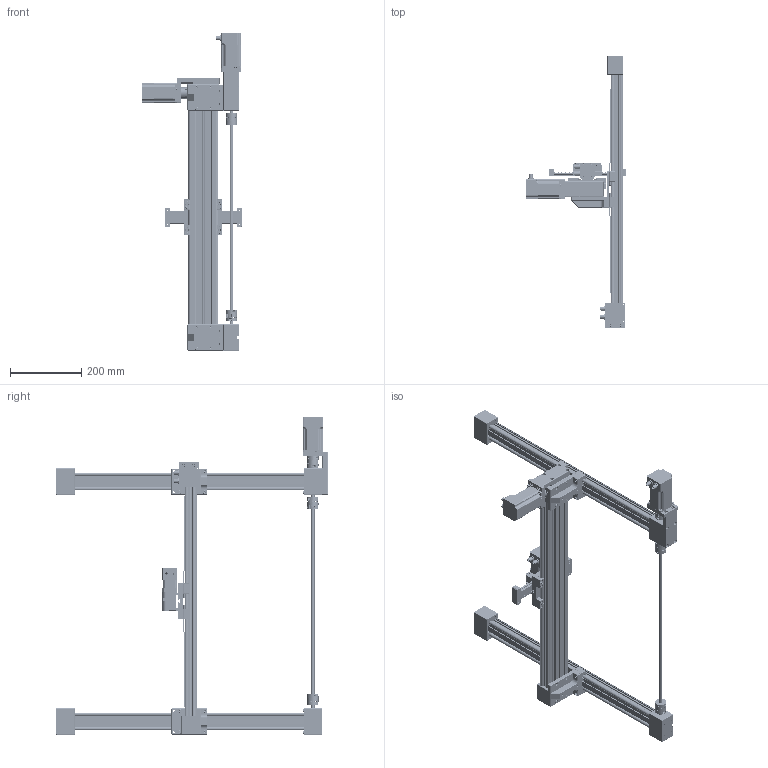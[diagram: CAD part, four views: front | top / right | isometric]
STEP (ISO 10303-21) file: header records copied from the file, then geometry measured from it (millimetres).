
FILE_DESCRIPTION((''),'2;1');
FILE_NAME('I:\Gleitlager\Konstruktion\SERIE NEU (im Aufbau!!)\drylin E\Portale\DLE-RG-XXXX\DLE-RG-0001\DLE-RG-0001.stp','2014-10-31T08:08:35',('fkleine'),(''),'Autodesk Inventor 2013','Autodesk Inventor 2013','');
FILE_SCHEMA(('AUTOMOTIVE_DESIGN { 1 0 10303 214 1 1 1 1 }'));
Length unit declared in the file: millimetre
Products named in the file (82): DLE-RG-0001.iam (Parametermodell); ZLW-1040-S-konfig-X1.iam (Parametermodell); ZSX-104001-konfig; ZTL-104002; SAXT-104001; SAXT-104002; DIN 7984 M4 x 10; ZTL-10400S-V; SAWT-104002; DIN 913 M5 x 5; DIN 7984 M5 x 20; JTEM-10; DIN 625 SKF 6000; ZTY-104035; ZTZ-104009; ZS-104001; NOR-10601; WJUM-11-10; WM-01-10; JUMO-01-10; ZSY-104001; ZR-104001-konfig; ZR-104001-XX-konfig; DIN 7991 M6x12; ZSY-104002; ZTF-104006; SAXT-104005; ZTF-10400S-R-L-V; SAWT-104003; ZLW-1080-konfig.iam (Parametermodell); ZSX-108001-konfig; ZTL-108001; ZTZ-108001; ZTY-108001; ZTF-108002; ZTY-108002; ZTZ-108002; SAWT-104001; ZS-108001; ZSY-108001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
Assembly tree (214 placements, depth 5):
  DLE-RG-0001.iam (Parametermodell)
    ZLW-1040-S-konfig-X1.iam (Parametermodell)
      ZSX-104001-konfig
      ZTL-104002
        SAXT-104001
        SAXT-104002
        DIN 7984 M4 x 10  x2
        ZTL-10400S-V
          SAWT-104002
          DIN 913 M5 x 5  x4
          DIN 7984 M5 x 20  x4
          JTEM-10  x4
          DIN 625 SKF 6000  x2
          ZTY-104035  x2
        ZTZ-104009  x2
      ZS-104001
        NOR-10601  x4
        WJUM-11-10  x4
          WM-01-10
          JUMO-01-10
        ZSY-104001
      ZR-104001-konfig
        ZR-104001-XX-konfig
        DIN 7991 M6x12  x2
        ZSY-104002  x2
      ZTF-104006
        SAXT-104005
        SAXT-104002
        DIN 7984 M4 x 10  x2
        ZTF-10400S-R-L-V
          JTEM-10  x2
          DIN 625 SKF 6000  x2
          SAWT-104003
          ZTY-104035  x2
        ZTZ-104009  x2
    ZLW-1080-konfig.iam (Parametermodell)
      ZSX-108001-konfig
      ZTL-108001
        ZTZ-108001
        ZTY-108001
        SAWT-104002
        ZTY-104035  x2
        JTEM-10  x2
        DIN 7984 M5 x 20  x4
        DIN 7984 M4 x 10  x2
        DIN 625 SKF 6000  x2
        DIN 913 M5 x 5  x4
      ZTF-108002
        ZTY-108002
        ZTZ-108002
        ZTY-104035  x2
        SAWT-104001
        JTEM-10  x2
        DIN 7984 M5 x 20  x4
        DIN 7984 M4 x 10  x2
        DIN 625 SKF 6000  x2
      ZS-108001
        NOR-10601  x4
        WJUM-11-10  x4
          WM-01-10
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Bounding box: 279.95 x 761.5 x 889 mm (x, y, z)
Volume: 3518873.1 mm3; surface area: 2093744 mm2
Topology: 245 solids, 260 shells, 12667 faces, 33017 edges, 21060 vertices
Faces by surface type: plane 6420, cylinder 4208, cone 910, torus 468, sphere 340, bspline 321
Full cylindrical faces by diameter (mm): 1 x39, 1.3 x4, 1.8 x36, 2 x36, 2.013 x11, 2.1 x4, 2.459 x13, 2.5 x24, 2.75 x8, 2.8 x12, 2.9 x4, 3 x33, 3.2 x5, 3.242 x28, 3.4 x4, 3.459 x8, 4 x48, 4.1 x4, 4.134 x28, 4.2 x8, 4.459 x4, 4.5 x8, 4.9 x4, 4.917 x52, 5 x106, 5.5 x56, 6 x52, 6.35 x2, 6.5 x8, 6.6 x34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
Entity records: 184515 total; most frequent: CARTESIAN_POINT 38177, DIRECTION 29558, ORIENTED_EDGE 29106, EDGE_CURVE 14553, AXIS2_PLACEMENT_3D 10229, VERTEX_POINT 9838, VECTOR 9100, LINE 9100
